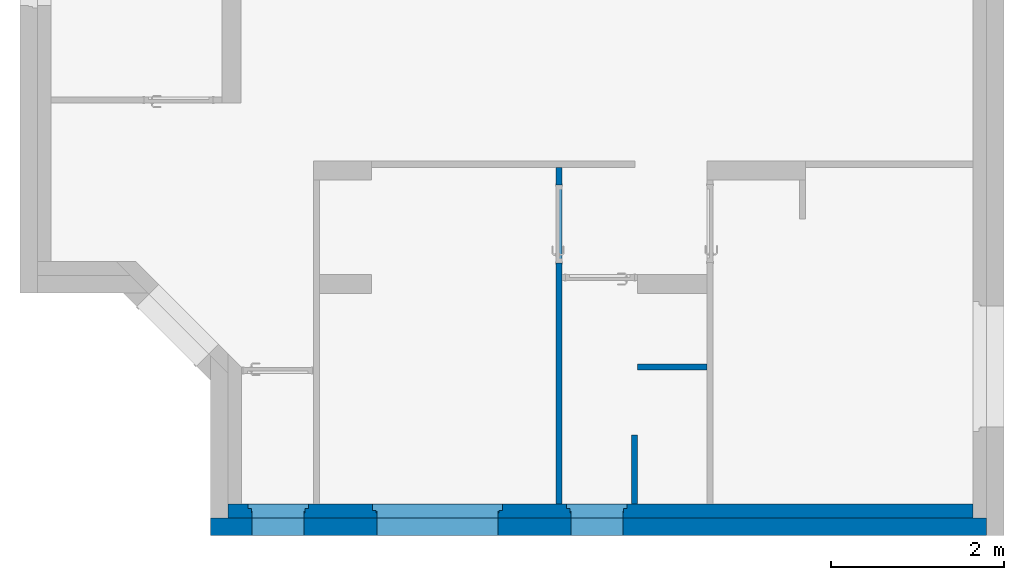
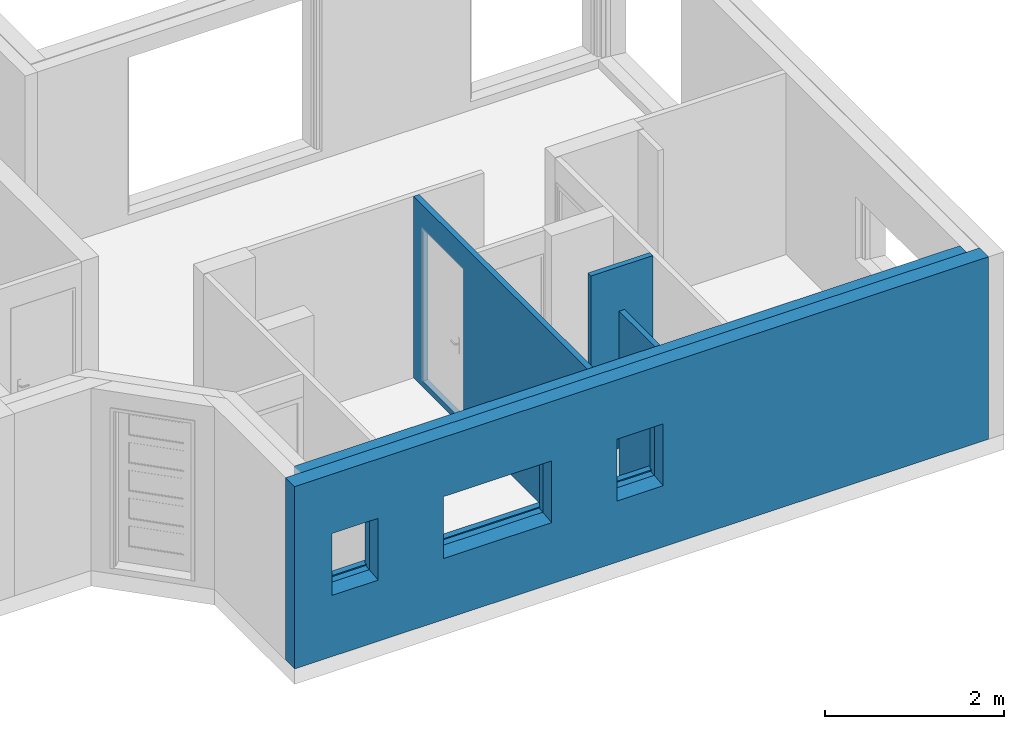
# One storey, part 2 of 8: 5 walls, 8 openings.
"""IFC2X3 building model written with IfcOpenShell, lengths in centimetres."""

import ifcopenshell
import ifcopenshell.guid

model = None  # the IFC model being written
_history = None  # IfcOwnerHistory: only IFC2X3 demands one
_inside = {}  # id of a spatial element -> (the spatial element, [elements in it])
_under = {}  # id of a project, library or spatial element -> (it, [spatial elements below it])
_declared = {}  # id of a project -> (the project, [libraries it declares])
_typed = {}  # id of a type object -> (the type object, [elements of that type])
_made_of = {}  # id of a material, layer set ... -> (it, [elements and type objects made of it])


def new_model(schema):
    """Start an empty IFC model of exactly this schema.

    Asked for "IFC4X3", IfcOpenShell would pick the latest addendum, in which some entities
    have other attributes; the version numbers below select the first issue.
    IFC2X3 requires an IfcOwnerHistory on every rooted entity: one is made here for all.
    """
    global model, _history
    if schema == "IFC4X3":
        model = ifcopenshell.file(schema_version=(4, 3, 0, 0))
    else:
        model = ifcopenshell.file(schema=schema)
    _inside.clear()
    _under.clear()
    _declared.clear()
    _typed.clear()
    _made_of.clear()
    _history = None
    if model.schema == "IFC2X3":
        org = make("IfcOrganization", Name="unknown")
        user = make(
            "IfcPersonAndOrganization",
            ThePerson=make("IfcPerson", FamilyName="unknown"),
            TheOrganization=org,
        )
        app = make(
            "IfcApplication",
            ApplicationDeveloper=org,
            Version="unknown",
            ApplicationFullName="unknown",
            ApplicationIdentifier="unknown",
        )
        _history = make(
            "IfcOwnerHistory",
            OwningUser=user,
            OwningApplication=app,
            ChangeAction="ADDED",
            CreationDate=0,
        )
    return model


def make(cls, **values):
    """One entity of the class cls with the attributes given. An attribute that is None is left unset."""
    return model.create_entity(
        cls, **{name: value for name, value in values.items() if value is not None}
    )


def entity(cls, *values):
    """Any entity or typed value of the class cls, its attributes in the order of the schema. None: left unset."""
    e = model.create_entity(cls)
    for i, value in enumerate(values):
        if value is not None:
            e[i] = value
    return e


def rooted(cls, **values):
    """An entity with a GlobalId (a new one), such as an element, a storey or a relation."""
    return make(cls, GlobalId=ifcopenshell.guid.new(), OwnerHistory=_history, **values)


def si_unit(unit_type, name, prefix=None):
    """IfcSIUnit, for example si_unit("LENGTHUNIT", "METRE", prefix="MILLI")."""
    return make("IfcSIUnit", UnitType=unit_type, Prefix=prefix, Name=name)


def converted_unit(unit_type, name, factor, base, dimensions=None, offset=None):
    """IfcConversionBasedUnit, such as the inch: factor (a typed value) times the base unit."""
    return make(
        "IfcConversionBasedUnit"
        if offset is None
        else "IfcConversionBasedUnitWithOffset",
        ConversionOffset=offset,
        Dimensions=None
        if dimensions is None
        else entity("IfcDimensionalExponents", *dimensions),
        UnitType=unit_type,
        Name=name,
        ConversionFactor=make(
            "IfcMeasureWithUnit", ValueComponent=factor, UnitComponent=base
        ),
    )


def derived_unit(unit_type, elements):
    """IfcDerivedUnit: a product of units, each with its exponent."""
    return make(
        "IfcDerivedUnit",
        Elements=[
            make("IfcDerivedUnitElement", Unit=unit, Exponent=power)
            for unit, power in elements
        ],
        UnitType=unit_type,
    )


def assignment(units):
    """IfcUnitAssignment: the units of a project."""
    return None if units is None else make("IfcUnitAssignment", Units=units)


def point(xyz):
    """IfcCartesianPoint."""
    return None if xyz is None else make("IfcCartesianPoint", Coordinates=xyz)


def direction(xyz):
    """IfcDirection."""
    return None if xyz is None else make("IfcDirection", DirectionRatios=xyz)


def frame(location, z_axis=None, x_axis=None):
    """IfcAxis2Placement3D, a coordinate frame: its origin and axes. An axis left out is left unset."""
    return make(
        "IfcAxis2Placement3D",
        Location=point(location),
        Axis=direction(z_axis),
        RefDirection=direction(x_axis),
    )


def frame_2d(location, x_axis=None):
    """IfcAxis2Placement2D, a coordinate frame in the plane: its origin and x axis."""
    return make(
        "IfcAxis2Placement2D", Location=point(location), RefDirection=direction(x_axis)
    )


def origin():
    """The frame at (0, 0, 0) with its axes left unset."""
    return frame((0.0, 0.0, 0.0))


def place(relative_to, where):
    """IfcLocalPlacement: puts the frame where relative to a parent placement (None: the world)."""
    return make(
        "IfcLocalPlacement", PlacementRelTo=relative_to, RelativePlacement=where
    )


def context(
    kind, dimensions, precision=None, world=None, true_north=None, identifier=None
):
    """IfcGeometricRepresentationContext, for example the 3D "Model" context."""
    return make(
        "IfcGeometricRepresentationContext",
        ContextIdentifier=identifier,
        ContextType=kind,
        CoordinateSpaceDimension=dimensions,
        Precision=precision,
        WorldCoordinateSystem=world,
        TrueNorth=true_north,
    )


def subcontext(parent, identifier, kind, view, scale=None):
    """IfcGeometricRepresentationSubContext, for example "Body" below "Model"."""
    return make(
        "IfcGeometricRepresentationSubContext",
        ContextIdentifier=identifier,
        ContextType=kind,
        ParentContext=parent,
        TargetScale=scale,
        TargetView=view,
    )


def project(units=None, contexts=None):
    """IfcProject with its units and contexts."""
    return rooted(
        "IfcProject",
        Name="project",
        RepresentationContexts=contexts,
        UnitsInContext=assignment(units),
    )


def spatial(cls, under=None, at=None, **own):
    """A site, building, storey or space (cls), placed at a placement, below another one or the project."""
    s = rooted(cls, ObjectPlacement=at, **own)
    if under is not None:
        _under.setdefault(under.id(), (under, []))[1].append(s)
    return s


def polyline(points):
    """IfcPolyline through the points."""
    return make("IfcPolyline", Points=[point(p) for p in points])


def profile(cls, at=None, kind="AREA", **sizes):
    """A parametric profile (cls). Its sizes go by their IFC names, for example OverallWidth=200.0."""
    return make(cls, ProfileType=kind, Position=at, **sizes)


def rectangle(**sizes):
    """IfcRectangleProfileDef."""
    return profile("IfcRectangleProfileDef", **sizes)


def extrude(swept, where, along, depth):
    """IfcExtrudedAreaSolid: the profile swept, set in the frame where, extruded along a direction by depth."""
    return make(
        "IfcExtrudedAreaSolid",
        SweptArea=swept,
        Position=where,
        ExtrudedDirection=direction(along),
        Depth=depth,
    )


def clip(a, b, op="DIFFERENCE"):
    """IfcBooleanClippingResult: the solid a cut by the half space b."""
    return make(
        "IfcBooleanClippingResult", Operator=op, FirstOperand=a, SecondOperand=b
    )


def bounded_halfspace(plane, agree, where, boundary):
    """IfcPolygonalBoundedHalfSpace: a half space limited to a polygon's prism."""
    return make(
        "IfcPolygonalBoundedHalfSpace",
        BaseSurface=make("IfcPlane", Position=plane),
        AgreementFlag=agree,
        Position=where,
        PolygonalBoundary=boundary,
    )


def faces_of(points, faces, orient=None, outer=None):
    """IfcFace entities. A face is a list of loops; a loop is a list of indices into points, from 0.

    orient and outer hold one flag for each loop. By default every Orientation is true, the
    first loop of a face is its IfcFaceOuterBound and the others are IfcFaceBound.
    """
    made = []
    for i, loops in enumerate(faces):
        bounds = []
        for j, loop in enumerate(loops):
            is_outer = j == 0 if outer is None else outer[i][j]
            bounds.append(
                make(
                    "IfcFaceOuterBound" if is_outer else "IfcFaceBound",
                    Bound=make("IfcPolyLoop", Polygon=[points[k] for k in loop]),
                    Orientation=True if orient is None else orient[i][j],
                )
            )
        made.append(make("IfcFace", Bounds=bounds))
    return made


def faceted_brep(points, faces, orient=None, outer=None, voids=None):
    """IfcFacetedBrep: a solid bounded by flat faces; with voids (closed shells), ...WithVoids."""
    shared = [point(p) for p in points]
    hull = make("IfcClosedShell", CfsFaces=faces_of(shared, faces, orient, outer))
    if voids is None:
        return make("IfcFacetedBrep", Outer=hull)
    return make(
        "IfcFacetedBrepWithVoids",
        Outer=hull,
        Voids=[
            make(cls, CfsFaces=faces_of(shared, fs, o, b)) for cls, fs, o, b in voids
        ],
    )


def shape(context_of_items, identifier, shape_type, items):
    """IfcShapeRepresentation: the items that make up one representation, for example the "Body"."""
    return make(
        "IfcShapeRepresentation",
        ContextOfItems=context_of_items,
        RepresentationIdentifier=identifier,
        RepresentationType=shape_type,
        Items=items,
    )


def material(Name=None, Category=None):
    """IfcMaterial."""
    return make("IfcMaterial", Name=Name, Category=Category)


def layer(
    of_material, thickness, ventilated=None, Name=None, Category=None, Priority=None
):
    """IfcMaterialLayer: one layer of a wall or slab, of a material (None: an air gap)."""
    return make(
        "IfcMaterialLayer",
        Material=of_material,
        LayerThickness=thickness,
        IsVentilated=ventilated,
        Name=Name,
        Category=Category,
        Priority=Priority,
    )


def layer_set(layers, Name=None):
    """IfcMaterialLayerSet."""
    return make("IfcMaterialLayerSet", MaterialLayers=layers, LayerSetName=Name)


def layer_usage(for_layer_set, set_direction, sense, offset, extent=None):
    """IfcMaterialLayerSetUsage: how a layer set lies in its element."""
    return make(
        "IfcMaterialLayerSetUsage",
        ForLayerSet=for_layer_set,
        LayerSetDirection=set_direction,
        DirectionSense=sense,
        OffsetFromReferenceLine=offset,
        ReferenceExtent=extent,
    )


def made_of(thing, what):
    """Note that an element or type object is made of a material, layer set ...; save() writes the relation."""
    if what is not None:
        _made_of.setdefault(what.id(), (what, []))[1].append(thing)
    return thing


def type_object(cls, material=None, **own):
    """A type object (cls), such as IfcWallType, which elements share."""
    return made_of(rooted(cls, **own), material)


def element(
    cls,
    number,
    at=None,
    inside=None,
    cuts=None,
    type_object=None,
    material=None,
    context=None,
    identifier="Body",
    shape_type=None,
    held_by="IfcProductDefinitionShape",
    body=None,
    shapes=None,
    **own,
):
    """One element of the class cls, such as IfcWall. Its Tag is "e" and its number.

    at: its placement. inside: the storey or other place that contains it. cuts: it is an
    opening in that element (IfcRelVoidsElement). A single representation is given by context,
    identifier, shape_type and body (its items); several are given by shapes. held_by: the class
    of the entity that holds the representations. save() writes the other relations.
    """
    e = rooted(cls, Tag="e%d" % number, ObjectPlacement=at, **own)
    if body is not None:
        shapes = [shape(context, identifier, shape_type, body)]
    if shapes is not None:
        e.Representation = make(held_by, Representations=shapes)
    if inside is not None:
        _inside.setdefault(inside.id(), (inside, []))[1].append(e)
    if cuts is not None:
        rooted(
            "IfcRelVoidsElement", RelatingBuildingElement=cuts, RelatedOpeningElement=e
        )
    if type_object is not None:
        _typed.setdefault(type_object.id(), (type_object, []))[1].append(e)
    return made_of(e, material)


def aggregate(whole, parts):
    """IfcRelAggregates: a whole, such as a stair, and the parts it consists of."""
    return rooted("IfcRelAggregates", RelatingObject=whole, RelatedObjects=parts)


def save(model, path):
    """Write the relations noted so far, then the file.

    IfcRelAggregates (storeys below a building ...), IfcRelContainedInSpatialStructure (elements
    in a storey), IfcRelDefinesByType, IfcRelAssociatesMaterial and IfcRelDeclares: one each for
    every whole, place, type object, material and project.
    """
    for whole, parts in _under.values():
        aggregate(whole, parts)
    for where, things in _inside.values():
        rooted(
            "IfcRelContainedInSpatialStructure",
            RelatedElements=things,
            RelatingStructure=where,
        )
    for kind, things in _typed.values():
        rooted("IfcRelDefinesByType", RelatedObjects=things, RelatingType=kind)
    for what, things in _made_of.values():
        rooted("IfcRelAssociatesMaterial", RelatedObjects=things, RelatingMaterial=what)
    for by, libraries in _declared.values():
        rooted("IfcRelDeclares", RelatingContext=by, RelatedDefinitions=libraries)
    model.write(path)


model = new_model("IFC2X3")

# Units and contexts
model_context = context("Model", 3, precision=0.001, world=origin(), true_north=direction((6.12303176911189e-17, 1.0)))
body_context = subcontext(model_context, "Body", "Model", "MODEL_VIEW")
ifc_project = project(units=[si_unit("LENGTHUNIT", "METRE", prefix="CENTI"), si_unit("AREAUNIT", "SQUARE_METRE"), si_unit("VOLUMEUNIT", "CUBIC_METRE"), converted_unit("PLANEANGLEUNIT", "DEGREE", entity("IfcRatioMeasure", 0.0174532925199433), si_unit("PLANEANGLEUNIT", "RADIAN"), dimensions=[0, 0, 0, 0, 0, 0, 0]), si_unit("MASSUNIT", "GRAM", prefix="KILO"), derived_unit("MASSDENSITYUNIT", [(si_unit("MASSUNIT", "GRAM", prefix="KILO"), 1), (si_unit("LENGTHUNIT", "METRE"), -3)]), derived_unit("MOMENTOFINERTIAUNIT", [(si_unit("LENGTHUNIT", "METRE"), 4)]), si_unit("TIMEUNIT", "SECOND"), si_unit("FREQUENCYUNIT", "HERTZ"), si_unit("THERMODYNAMICTEMPERATUREUNIT", "DEGREE_CELSIUS"), derived_unit("THERMALTRANSMITTANCEUNIT", [(si_unit("MASSUNIT", "GRAM", prefix="KILO"), 1), (si_unit("THERMODYNAMICTEMPERATUREUNIT", "KELVIN"), -1), (si_unit("TIMEUNIT", "SECOND"), -3)]), derived_unit("VOLUMETRICFLOWRATEUNIT", [(si_unit("LENGTHUNIT", "METRE"), 3), (si_unit("TIMEUNIT", "SECOND"), -1)]), si_unit("ELECTRICCURRENTUNIT", "AMPERE"), si_unit("ELECTRICVOLTAGEUNIT", "VOLT"), si_unit("POWERUNIT", "WATT"), si_unit("FORCEUNIT", "NEWTON", prefix="KILO"), si_unit("ILLUMINANCEUNIT", "LUX"), si_unit("LUMINOUSFLUXUNIT", "LUMEN"), si_unit("LUMINOUSINTENSITYUNIT", "CANDELA"), derived_unit("USERDEFINED", [(si_unit("MASSUNIT", "GRAM", prefix="KILO"), -1), (si_unit("LENGTHUNIT", "METRE"), -2), (si_unit("TIMEUNIT", "SECOND"), 3), (si_unit("LUMINOUSFLUXUNIT", "LUMEN"), 1)]), derived_unit("LINEARVELOCITYUNIT", [(si_unit("LENGTHUNIT", "METRE"), 1), (si_unit("TIMEUNIT", "SECOND"), -1)]), si_unit("PRESSUREUNIT", "PASCAL"), derived_unit("USERDEFINED", [(si_unit("LENGTHUNIT", "METRE"), -2), (si_unit("MASSUNIT", "GRAM", prefix="KILO"), 1), (si_unit("TIMEUNIT", "SECOND"), -2)]), derived_unit("LINEARFORCEUNIT", [(si_unit("MASSUNIT", "GRAM", prefix="KILO"), 1), (si_unit("LENGTHUNIT", "METRE"), 1), (si_unit("TIMEUNIT", "SECOND"), -2), (si_unit("LENGTHUNIT", "METRE"), -1)]), derived_unit("PLANARFORCEUNIT", [(si_unit("MASSUNIT", "GRAM", prefix="KILO"), 1), (si_unit("LENGTHUNIT", "METRE"), 1), (si_unit("TIMEUNIT", "SECOND"), -2), (si_unit("LENGTHUNIT", "METRE"), -2)])], contexts=[model_context])

# Site, building, storey
site_placement = place(None, origin())
site = spatial("IfcSite", under=ifc_project, at=site_placement, Name="Surface", CompositionType="ELEMENT")
building_placement = place(site_placement, origin())
building = spatial("IfcBuilding", under=site, at=building_placement, CompositionType="ELEMENT")
storey_placement = place(building_placement, frame((0.0, 0.0, -8.0)))
storey = spatial("IfcBuildingStorey", under=building, at=storey_placement, Name="-0.08_Dessus plancher", CompositionType="ELEMENT", Elevation=-8.0)

# Wall, openings
ifc_material_1 = material(Name="Maçonnerie - Béton")
ifc_layer_1 = layer(ifc_material_1, 20.0)
ifc_layer_set_1 = layer_set([ifc_layer_1], Name="Mur de base:Mur 20")
ifc_layer_usage_1 = layer_usage(ifc_layer_set_1, "AXIS2", "NEGATIVE", 10.0)
wall_type_1 = type_object("IfcWallType", Name="Mur de base:Mur 20", PredefinedType="STANDARD", material=ifc_layer_set_1)
wall_1_placement = place(storey_placement, frame((-672.177260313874, -149.007682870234, 0.0), z_axis=(0.0, 0.0, 1.0), x_axis=(-1.0, 0.0, 0.0)))
wall_1 = element("IfcWallStandardCase", 1, at=wall_1_placement, inside=storey, type_object=wall_type_1, material=ifc_layer_usage_1, Name="Mur de base:Mur 20", ObjectType="Mur de base:Mur 20", context=body_context, shape_type="Clipping", body=[
    clip(extrude(rectangle(XDim=896.0, YDim=20.0, at=frame_2d((448.0, 2.66453525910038e-15), x_axis=(-1.0, 0.0))), origin(), (0.0, 0.0, 1.0), 249.0), bounded_halfspace(frame((0.0, -10.0, 249.0), z_axis=(0.0, 0.0, -1.0), x_axis=(0.0, 1.0, 0.0)), True, frame((0.0, -10.0, 249.0)), polyline([(0.0, 0.0), (876.0, 0.0), (896.0, 0.0), (896.0, 20.0), (0.0, 20.0), (0.0, 0.0)]))),
])
opening_1_placement = place(wall_1_placement, frame((485.0, 32.0, 81.2447882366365)))
element("IfcOpeningElement", 2, at=opening_1_placement, cuts=wall_1, Name="Mur de base:Mur 20", ObjectType="Opening", context=body_context, shape_type="Brep", body=[
    faceted_brep([(-65.0, -50.0, 6.75521176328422), (-65.0, -48.0, 6.75521176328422), (-65.0, -48.0, 86.7552117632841), (-65.0, 0.0, 86.7552117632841), (-65.0, 0.0, 0.0), (-65.0, -50.0, 5.25521176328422), (-5.0, -100.0, 6.75521176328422), (-5.0, -58.0, 6.75521176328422), (-5.0, -58.0, 86.7552117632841), (-5.0, -100.0, 86.7552117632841), (-65.0, -100.0, 6.75521176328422), (-65.0, -58.0, 6.75521176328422), (-70.0, -58.0, 6.75521176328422), (-70.0, -53.0, 6.75521176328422), (-66.0, -53.0, 6.75521176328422), (-66.0, -48.0, 6.75521176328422), (-5.0, -50.0, 6.75521176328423), (-5.0, -48.0, 6.75521176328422), (-4.0, -48.0, 6.75521176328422), (-4.0, -53.0, 6.75521176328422), (0.0, -53.0, 6.75521176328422), (0.0, -58.0, 6.75521176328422), (-65.0, -100.0, 86.7552117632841), (-5.0, -48.0, 86.7552117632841), (-5.0, 0.0, 86.7552117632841), (-5.0, 0.0, 0.0), (-5.0, -50.0, 5.25521176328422), (-70.0, -58.0, 91.7552117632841), (-70.0, -53.0, 91.7552117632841), (0.0, -53.0, 91.7552117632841), (-4.0, -53.0, 87.7552117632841), (-66.0, -53.0, 87.7552117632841), (-66.0, -48.0, 87.7552117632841), (-4.0, -48.0, 87.7552117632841), (-65.0, -58.0, 86.7552117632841), (0.0, -58.0, 91.7552117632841)], [[[0, 1, 2, 3, 4, 5]], [[6, 7, 8, 9]], [[10, 11, 12, 13, 14, 15, 1, 0, 16, 17, 18, 19, 20, 21, 7, 6]], [[10, 6, 9, 22]], [[3, 2, 23, 24]], [[3, 24, 25, 4]], [[4, 25, 26, 5]], [[5, 26, 16, 0]], [[12, 27, 28, 13]], [[13, 28, 29, 20, 19, 30, 31, 14]], [[14, 31, 32, 15]], [[15, 32, 33, 18, 17, 23, 2, 1]], [[11, 34, 8, 7, 21, 35, 27, 12]], [[27, 35, 29, 28]], [[30, 33, 32, 31]], [[29, 35, 21, 20]], [[19, 18, 33, 30]], [[9, 8, 34, 22]], [[24, 23, 17, 16, 26, 25]], [[22, 34, 11, 10]]]),
])
opening_2_placement = place(wall_1_placement, frame((853.0, 32.0, 81.2447882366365)))
element("IfcOpeningElement", 3, at=opening_2_placement, cuts=wall_1, Name="Mur de base:Mur 20", ObjectType="Opening", context=body_context, shape_type="Brep", body=[
    faceted_brep([(-65.0, -50.0, 6.75521176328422), (-65.0, -48.0, 6.75521176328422), (-65.0, -48.0, 86.7552117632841), (-65.0, 0.0, 86.7552117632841), (-65.0, 0.0, 0.0), (-65.0, -50.0, 5.25521176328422), (-5.0, -100.0, 6.75521176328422), (-5.0, -58.0, 6.75521176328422), (-5.0, -58.0, 86.7552117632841), (-5.0, -100.0, 86.7552117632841), (-65.0, -100.0, 6.75521176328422), (-65.0, -58.0, 6.75521176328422), (-70.0, -58.0, 6.75521176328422), (-70.0, -53.0, 6.75521176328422), (-66.0, -53.0, 6.75521176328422), (-66.0, -48.0, 6.75521176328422), (-5.0, -50.0, 6.75521176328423), (-5.0, -48.0, 6.75521176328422), (-4.0, -48.0, 6.75521176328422), (-4.0, -53.0, 6.75521176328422), (0.0, -53.0, 6.75521176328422), (0.0, -58.0, 6.75521176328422), (-65.0, -100.0, 86.7552117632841), (-5.0, -48.0, 86.7552117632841), (-5.0, 0.0, 86.7552117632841), (-5.0, 0.0, 0.0), (-5.0, -50.0, 5.25521176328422), (-70.0, -58.0, 91.7552117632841), (-70.0, -53.0, 91.7552117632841), (0.0, -53.0, 91.7552117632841), (-4.0, -53.0, 87.7552117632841), (-66.0, -53.0, 87.7552117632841), (-66.0, -48.0, 87.7552117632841), (-4.0, -48.0, 87.7552117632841), (-65.0, -58.0, 86.7552117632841), (0.0, -58.0, 91.7552117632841)], [[[0, 1, 2, 3, 4, 5]], [[6, 7, 8, 9]], [[10, 11, 12, 13, 14, 15, 1, 0, 16, 17, 18, 19, 20, 21, 7, 6]], [[10, 6, 9, 22]], [[3, 2, 23, 24]], [[3, 24, 25, 4]], [[4, 25, 26, 5]], [[5, 26, 16, 0]], [[12, 27, 28, 13]], [[13, 28, 29, 20, 19, 30, 31, 14]], [[14, 31, 32, 15]], [[15, 32, 33, 18, 17, 23, 2, 1]], [[11, 34, 8, 7, 21, 35, 27, 12]], [[27, 35, 29, 28]], [[30, 33, 32, 31]], [[29, 35, 21, 20]], [[19, 18, 33, 30]], [[9, 8, 34, 22]], [[24, 23, 17, 16, 26, 25]], [[22, 34, 11, 10]]]),
])
opening_3_placement = place(wall_1_placement, frame((709.0, 32.0, 81.2447882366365)))
element("IfcOpeningElement", 4, at=opening_3_placement, cuts=wall_1, Name="Mur de base:Mur 20", ObjectType="Opening", context=body_context, shape_type="Brep", body=[
    faceted_brep([(-145.0, -50.0, 6.75521176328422), (-145.0, -48.0, 6.75521176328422), (-145.0, -48.0, 86.7552117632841), (-145.0, 0.0, 86.7552117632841), (-145.0, 0.0, 0.0), (-145.0, -50.0, 5.25521176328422), (-5.0, -100.0, 6.75521176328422), (-5.0, -58.0, 6.75521176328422), (-5.0, -58.0, 86.7552117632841), (-5.0, -100.0, 86.7552117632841), (-145.0, -100.0, 6.75521176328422), (-145.0, -58.0, 6.75521176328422), (-150.0, -58.0, 6.75521176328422), (-150.0, -51.0, 6.75521176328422), (-146.0, -51.0, 6.75521176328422), (-146.0, -48.0, 6.75521176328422), (-5.0, -50.0, 6.75521176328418), (-5.0, -48.0, 6.75521176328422), (-4.0, -48.0, 6.75521176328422), (-4.0, -51.0, 6.75521176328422), (0.0, -51.0, 6.75521176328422), (0.0, -58.0, 6.75521176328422), (-145.0, -100.0, 86.7552117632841), (-5.0, -48.0, 86.7552117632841), (-5.0, 0.0, 86.7552117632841), (-5.0, 0.0, 0.0), (-5.0, -50.0, 5.25521176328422), (-150.0, -58.0, 91.7552117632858), (-150.0, -51.0, 91.7552117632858), (0.0, -51.0, 91.7552117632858), (-4.0, -51.0, 87.7552117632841), (-146.0, -51.0, 87.7552117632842), (-146.0, -48.0, 87.7552117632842), (-4.0, -48.0, 87.7552117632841), (-145.0, -58.0, 86.7552117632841), (0.0, -58.0, 91.7552117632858)], [[[0, 1, 2, 3, 4, 5]], [[6, 7, 8, 9]], [[10, 11, 12, 13, 14, 15, 1, 0, 16, 17, 18, 19, 20, 21, 7, 6]], [[10, 6, 9, 22]], [[3, 2, 23, 24]], [[3, 24, 25, 4]], [[4, 25, 26, 5]], [[5, 26, 16, 0]], [[12, 27, 28, 13]], [[13, 28, 29, 20, 19, 30, 31, 14]], [[14, 31, 32, 15]], [[15, 32, 33, 18, 17, 23, 2, 1]], [[11, 34, 8, 7, 21, 35, 27, 12]], [[27, 35, 29, 28]], [[30, 33, 32, 31]], [[29, 35, 21, 20]], [[19, 18, 33, 30]], [[9, 8, 34, 22]], [[24, 23, 17, 16, 26, 25]], [[22, 34, 11, 10]]]),
])

ifc_material_2 = material(Name="Isolant rigide")
ifc_layer_2 = layer(ifc_material_2, 16.0)
ifc_layer_set_2 = layer_set([ifc_layer_2], Name="Mur de base:Doublage 16")
ifc_layer_usage_2 = layer_usage(ifc_layer_set_2, "AXIS2", "NEGATIVE", 8.0)
wall_type_2 = type_object("IfcWallType", Name="Mur de base:Doublage 16", PredefinedType="STANDARD", material=ifc_layer_set_2)
wall_2_placement = place(storey_placement, frame((-688.177260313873, -131.007682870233, 0.0), z_axis=(0.0, 0.0, 1.0), x_axis=(-1.0, 0.0, 0.0)))
wall_2 = element("IfcWallStandardCase", 5, at=wall_2_placement, inside=storey, type_object=wall_type_2, material=ifc_layer_usage_2, Name="Mur de base:Doublage 16", ObjectType="Mur de base:Doublage 16", context=body_context, shape_type="SweptSolid", body=[
    extrude(rectangle(XDim=860.000000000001, YDim=16.0, at=frame_2d((430.0, -8.88178419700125e-16), x_axis=(-1.0, 0.0))), origin(), (0.0, 0.0, 1.0), 248.0),
])
opening_4_placement = place(wall_2_placement, frame((469.0, 50.0, 81.2447882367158), z_axis=(0.0, 0.0, 1.0), x_axis=(-1.0, 0.0, 0.0)))
element("IfcOpeningElement", 6, at=opening_4_placement, cuts=wall_2, Name="Mur de base:Doublage 16", ObjectType="Opening", context=body_context, shape_type="Brep", body=[
    faceted_brep([(65.0, 50.0, 6.75521176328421), (65.0, 48.0, 6.75521176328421), (65.0, 48.0, 86.7552117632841), (65.0, 0.0, 86.7552117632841), (65.0, 0.0, 0.0), (65.0, 50.0, 5.25521176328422), (5.0, 100.0, 6.75521176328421), (5.0, 58.0, 6.75521176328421), (5.0, 58.0, 86.7552117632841), (5.0, 100.0, 86.7552117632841), (65.0, 100.0, 6.75521176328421), (65.0, 58.0, 6.75521176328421), (70.0, 58.0, 6.75521176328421), (70.0, 53.0, 6.75521176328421), (66.0, 53.0, 6.75521176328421), (66.0, 48.0, 6.75521176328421), (5.0, 50.0, 6.75521176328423), (5.0, 48.0, 6.75521176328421), (4.0, 48.0, 6.75521176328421), (4.0, 53.0, 6.75521176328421), (0.0, 53.0, 6.75521176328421), (0.0, 58.0, 6.75521176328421), (65.0, 100.0, 86.7552117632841), (5.0, 48.0, 86.7552117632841), (5.0, 0.0, 86.7552117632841), (5.0, 0.0, 0.0), (5.0, 50.0, 5.25521176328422), (70.0, 58.0, 91.7552117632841), (70.0, 53.0, 91.7552117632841), (0.0, 53.0, 91.7552117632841), (4.0, 53.0, 87.7552117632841), (66.0, 53.0, 87.7552117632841), (66.0, 48.0, 87.7552117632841), (4.0, 48.0, 87.7552117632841), (65.0, 58.0, 86.7552117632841), (0.0, 58.0, 91.7552117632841)], [[[0, 1, 2, 3, 4, 5]], [[6, 7, 8, 9]], [[10, 11, 12, 13, 14, 15, 1, 0, 16, 17, 18, 19, 20, 21, 7, 6]], [[10, 6, 9, 22]], [[3, 2, 23, 24]], [[3, 24, 25, 4]], [[4, 25, 26, 5]], [[5, 26, 16, 0]], [[12, 27, 28, 13]], [[13, 28, 29, 20, 19, 30, 31, 14]], [[14, 31, 32, 15]], [[15, 32, 33, 18, 17, 23, 2, 1]], [[11, 34, 8, 7, 21, 35, 27, 12]], [[27, 35, 29, 28]], [[30, 33, 32, 31]], [[29, 35, 21, 20]], [[19, 18, 33, 30]], [[9, 8, 34, 22]], [[24, 23, 17, 16, 26, 25]], [[22, 34, 11, 10]]]),
])
opening_5_placement = place(wall_2_placement, frame((693.0, 50.0, 81.2447882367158), z_axis=(0.0, 0.0, 1.0), x_axis=(-1.0, 0.0, 0.0)))
element("IfcOpeningElement", 7, at=opening_5_placement, cuts=wall_2, Name="Mur de base:Doublage 16", ObjectType="Opening", context=body_context, shape_type="Brep", body=[
    faceted_brep([(145.0, 50.0, 6.75521176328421), (145.0, 48.0, 6.75521176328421), (145.0, 48.0, 86.7552117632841), (145.0, 0.0, 86.7552117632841), (145.0, 0.0, 0.0), (145.0, 50.0, 5.25521176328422), (5.0, 100.0, 6.75521176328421), (5.0, 58.0, 6.75521176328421), (5.0, 58.0, 86.7552117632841), (5.0, 100.0, 86.7552117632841), (145.0, 100.0, 6.75521176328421), (145.0, 58.0, 6.75521176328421), (150.0, 58.0, 6.75521176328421), (150.0, 51.0, 6.75521176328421), (146.0, 51.0, 6.75521176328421), (146.0, 48.0, 6.75521176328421), (5.0, 50.0, 6.75521176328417), (5.0, 48.0, 6.75521176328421), (4.0, 48.0, 6.75521176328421), (4.0, 51.0, 6.75521176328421), (0.0, 51.0, 6.75521176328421), (0.0, 58.0, 6.75521176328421), (145.0, 100.0, 86.7552117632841), (5.0, 48.0, 86.7552117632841), (5.0, 0.0, 86.7552117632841), (5.0, 0.0, 0.0), (5.0, 50.0, 5.25521176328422), (150.0, 58.0, 91.7552117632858), (150.0, 51.0, 91.7552117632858), (0.0, 51.0, 91.7552117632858), (4.0, 51.0, 87.7552117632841), (146.0, 51.0, 87.7552117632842), (146.0, 48.0, 87.7552117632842), (4.0, 48.0, 87.7552117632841), (145.0, 58.0, 86.7552117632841), (0.0, 58.0, 91.7552117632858)], [[[0, 1, 2, 3, 4, 5]], [[6, 7, 8, 9]], [[10, 11, 12, 13, 14, 15, 1, 0, 16, 17, 18, 19, 20, 21, 7, 6]], [[10, 6, 9, 22]], [[3, 2, 23, 24]], [[3, 24, 25, 4]], [[4, 25, 26, 5]], [[5, 26, 16, 0]], [[12, 27, 28, 13]], [[13, 28, 29, 20, 19, 30, 31, 14]], [[14, 31, 32, 15]], [[15, 32, 33, 18, 17, 23, 2, 1]], [[11, 34, 8, 7, 21, 35, 27, 12]], [[27, 35, 29, 28]], [[30, 33, 32, 31]], [[29, 35, 21, 20]], [[19, 18, 33, 30]], [[9, 8, 34, 22]], [[24, 23, 17, 16, 26, 25]], [[22, 34, 11, 10]]]),
])
opening_6_placement = place(wall_2_placement, frame((837.0, 50.0, 81.2447882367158), z_axis=(0.0, 0.0, 1.0), x_axis=(-1.0, 0.0, 0.0)))
element("IfcOpeningElement", 8, at=opening_6_placement, cuts=wall_2, Name="Mur de base:Doublage 16", ObjectType="Opening", context=body_context, shape_type="Brep", body=[
    faceted_brep([(65.0, 50.0, 6.75521176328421), (65.0, 48.0, 6.75521176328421), (65.0, 48.0, 86.7552117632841), (65.0, 0.0, 86.7552117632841), (65.0, 0.0, 0.0), (65.0, 50.0, 5.25521176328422), (5.0, 100.0, 6.75521176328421), (5.0, 58.0, 6.75521176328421), (5.0, 58.0, 86.7552117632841), (5.0, 100.0, 86.7552117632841), (65.0, 100.0, 6.75521176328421), (65.0, 58.0, 6.75521176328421), (70.0, 58.0, 6.75521176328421), (70.0, 53.0, 6.75521176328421), (66.0, 53.0, 6.75521176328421), (66.0, 48.0, 6.75521176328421), (5.0, 50.0, 6.75521176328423), (5.0, 48.0, 6.75521176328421), (4.0, 48.0, 6.75521176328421), (4.0, 53.0, 6.75521176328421), (0.0, 53.0, 6.75521176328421), (0.0, 58.0, 6.75521176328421), (65.0, 100.0, 86.7552117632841), (5.0, 48.0, 86.7552117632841), (5.0, 0.0, 86.7552117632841), (5.0, 0.0, 0.0), (5.0, 50.0, 5.25521176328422), (70.0, 58.0, 91.7552117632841), (70.0, 53.0, 91.7552117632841), (0.0, 53.0, 91.7552117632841), (4.0, 53.0, 87.7552117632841), (66.0, 53.0, 87.7552117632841), (66.0, 48.0, 87.7552117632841), (4.0, 48.0, 87.7552117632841), (65.0, 58.0, 86.7552117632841), (0.0, 58.0, 91.7552117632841)], [[[0, 1, 2, 3, 4, 5]], [[6, 7, 8, 9]], [[10, 11, 12, 13, 14, 15, 1, 0, 16, 17, 18, 19, 20, 21, 7, 6]], [[10, 6, 9, 22]], [[3, 2, 23, 24]], [[3, 24, 25, 4]], [[4, 25, 26, 5]], [[5, 26, 16, 0]], [[12, 27, 28, 13]], [[13, 28, 29, 20, 19, 30, 31, 14]], [[14, 31, 32, 15]], [[15, 32, 33, 18, 17, 23, 2, 1]], [[11, 34, 8, 7, 21, 35, 27, 12]], [[27, 35, 29, 28]], [[30, 33, 32, 31]], [[29, 35, 21, 20]], [[19, 18, 33, 30]], [[9, 8, 34, 22]], [[24, 23, 17, 16, 26, 25]], [[22, 34, 11, 10]]]),
])

ifc_material_3 = material(Name="Mur par défaut")
ifc_layer_3 = layer(ifc_material_3, 7.0)
ifc_layer_set_3 = layer_set([ifc_layer_3], Name="Mur de base:Cloison 7cm")
ifc_layer_usage_3 = layer_usage(ifc_layer_set_3, "AXIS2", "NEGATIVE", 3.5)
wall_type_3 = type_object("IfcWallType", Name="Mur de base:Cloison 7cm", PredefinedType="STANDARD", material=ifc_layer_set_3)
wall_3_placement = place(storey_placement, frame((-1165.67726031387, -123.007682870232, 0.0), z_axis=(0.0, 0.0, 1.0), x_axis=(0.0, 1.0, 0.0)))
wall_3 = element("IfcWallStandardCase", 9, at=wall_3_placement, inside=storey, type_object=wall_type_3, material=ifc_layer_usage_3, Name="Mur de base:Cloison 7cm", ObjectType="Mur de base:Cloison 7cm", context=body_context, shape_type="SweptSolid", body=[
    extrude(rectangle(XDim=388.999999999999, YDim=7.00000000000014, at=frame_2d((194.5, -1.19904086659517e-14), x_axis=(-1.0, 0.0))), origin(), (0.0, 0.0, 1.0), 248.0),
])
opening_7_placement = place(wall_3_placement, frame((123.007682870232, -1165.67726031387, 8.0), z_axis=(0.0, 0.0, 1.0), x_axis=(0.0, -1.0, 0.0)))
element("IfcOpeningElement", 10, at=opening_7_placement, cuts=wall_3, Name="Mur de base:Cloison 7cm", ObjectType="Opening", context=body_context, shape_type="SweptSolid", body=[
    extrude(rectangle(XDim=207.5, YDim=90.0, at=frame_2d((1.4210854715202e-14, 0.0), x_axis=(0.0, 1.0))), frame((-1016.77726031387, 200.492317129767, 103.75), z_axis=(-1.0, 0.0, 0.0), x_axis=(0.0, -1.0, 0.0)), (0.0, 0.0, 1.0), 304.8),
])
opening_8_placement = place(wall_3_placement, frame((278.499999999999, -3.50000000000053, 8.0)))
element("IfcOpeningElement", 11, at=opening_8_placement, cuts=wall_3, Name="Int. Simple:PP (0.83m x 2.04m):1", ObjectType="Opening", context=body_context, shape_type="SweptSolid", body=[
    extrude(rectangle(XDim=207.5, YDim=90.0, at=frame_2d((103.75, 45.0), x_axis=(1.0, 0.0))), frame((0.0, 0.0, 0.0), z_axis=(0.0, 1.0, 0.0), x_axis=(0.0, 0.0, 1.0)), (0.0, 0.0, 1.0), 7.0),
])

# Walls
ifc_layer_usage_4 = layer_usage(ifc_layer_set_3, "AXIS2", "POSITIVE", -3.5)
wall_4_placement = place(storey_placement, frame((-1078.67726031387, -123.007682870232, 0.0), z_axis=(0.0, 0.0, 1.0), x_axis=(0.0, 1.0, 0.0)))
element("IfcWallStandardCase", 12, at=wall_4_placement, inside=storey, type_object=wall_type_3, material=ifc_layer_usage_4, Name="Mur de base:Cloison 7cm", ObjectType="Mur de base:Cloison 7cm", context=body_context, shape_type="SweptSolid", body=[
    extrude(rectangle(XDim=79.9999999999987, YDim=7.00000000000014, at=frame_2d((39.9999999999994, 0.0), x_axis=(-1.0, 0.0))), origin(), (0.0, 0.0, 1.0), 248.0),
])
ifc_layer_usage_5 = layer_usage(ifc_layer_set_3, "AXIS2", "NEGATIVE", 3.5)
wall_5_placement = place(storey_placement, frame((-1075.17726031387, 35.4923171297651, 0.0)))
element("IfcWallStandardCase", 13, at=wall_5_placement, inside=storey, type_object=wall_type_3, material=ifc_layer_usage_5, Name="Mur de base:Cloison 7cm", ObjectType="Mur de base:Cloison 7cm", context=body_context, shape_type="SweptSolid", body=[
    extrude(rectangle(XDim=79.9999999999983, YDim=7.00000000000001, at=frame_2d((39.9999999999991, 0.0), x_axis=(-1.0, 0.0))), origin(), (0.0, 0.0, 1.0), 248.0),
])

save(model, "model.ifc")
